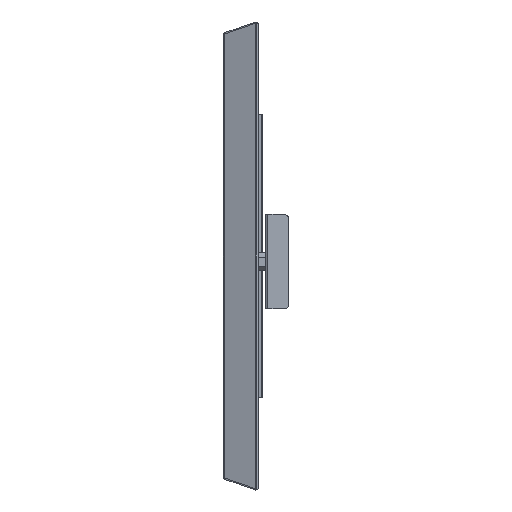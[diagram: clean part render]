
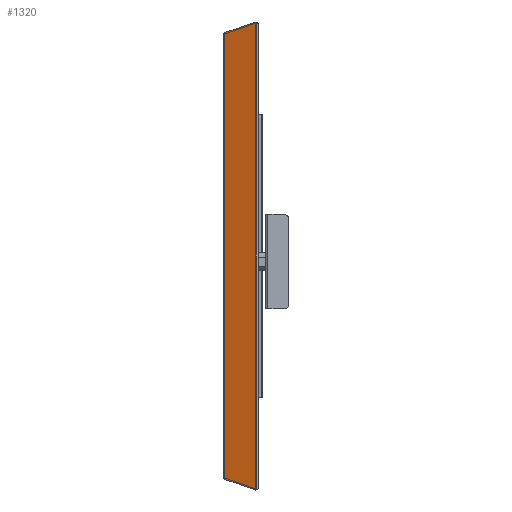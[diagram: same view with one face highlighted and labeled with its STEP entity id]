
A CAD part, left-side view. The second image highlights one B-rep face of the part: STEP entity #1320.
In plain terms, the highlighted planar face has unit normal (-0.946, 0.326, 0).
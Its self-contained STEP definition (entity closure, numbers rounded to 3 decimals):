
#68 = VECTOR ( 'NONE', #3161, 1000. ) ;
#77 = VERTEX_POINT ( 'NONE', #1229 ) ;
#475 = LINE ( 'NONE', #2182, #4254 ) ;
#514 = PLANE ( 'NONE',  #2197 ) ;
#733 = ORIENTED_EDGE ( 'NONE', *, *, #1914, .T. ) ;
#826 = ORIENTED_EDGE ( 'NONE', *, *, #2741, .T. ) ;
#829 = CARTESIAN_POINT ( 'NONE',  ( -638.375, 35.213, 236.375 ) ) ;
#897 = DIRECTION ( 'NONE',  ( -0.31, -0.899, -0.31 ) ) ;
#973 = ORIENTED_EDGE ( 'NONE', *, *, #3460, .T. ) ;
#1125 = DIRECTION ( 'NONE',  ( 0., 0., -1. ) ) ;
#1208 = EDGE_LOOP ( 'NONE', ( #2520, #733, #826, #973 ) ) ;
#1229 = CARTESIAN_POINT ( 'NONE',  ( -649.427, 3.115, 247.427 ) ) ;
#1320 = ADVANCED_FACE ( 'NONE', ( #3644 ), #514, .T. ) ;
#1534 = CARTESIAN_POINT ( 'NONE',  ( -650.5, 0., -248.5 ) ) ;
#1547 = EDGE_CURVE ( 'NONE', #3508, #77, #3111, .T. ) ;
#1557 = VECTOR ( 'NONE', #897, 1000. ) ;
#1602 = DIRECTION ( 'NONE',  ( -0.326, -0.946, 0. ) ) ;
#1800 = CARTESIAN_POINT ( 'NONE',  ( -650.5, 0., 248.5 ) ) ;
#1914 = EDGE_CURVE ( 'NONE', #3508, #3832, #3462, .T. ) ;
#1935 = DIRECTION ( 'NONE',  ( -0.946, 0.326, 0. ) ) ;
#2140 = DIRECTION ( 'NONE',  ( 0., 0., 1. ) ) ;
#2182 = CARTESIAN_POINT ( 'NONE',  ( -649.427, 3.115, -248.5 ) ) ;
#2197 = AXIS2_PLACEMENT_3D ( 'NONE', #1534, #1935, #1602 ) ;
#2362 = CARTESIAN_POINT ( 'NONE',  ( -638.375, 35.213, -236.375 ) ) ;
#2520 = ORIENTED_EDGE ( 'NONE', *, *, #1547, .F. ) ;
#2563 = VERTEX_POINT ( 'NONE', #3730 ) ;
#2615 = CARTESIAN_POINT ( 'NONE',  ( -650.5, 0., -248.5 ) ) ;
#2741 = EDGE_CURVE ( 'NONE', #3832, #2563, #3614, .T. ) ;
#3087 = CARTESIAN_POINT ( 'NONE',  ( -638.375, 35.213, -235.76 ) ) ;
#3111 = LINE ( 'NONE', #1800, #68 ) ;
#3161 = DIRECTION ( 'NONE',  ( -0.31, -0.899, 0.31 ) ) ;
#3460 = EDGE_CURVE ( 'NONE', #2563, #77, #475, .T. ) ;
#3462 = LINE ( 'NONE', #3087, #3544 ) ;
#3508 = VERTEX_POINT ( 'NONE', #829 ) ;
#3544 = VECTOR ( 'NONE', #1125, 1000. ) ;
#3614 = LINE ( 'NONE', #2615, #1557 ) ;
#3644 = FACE_OUTER_BOUND ( 'NONE', #1208, .T. ) ;
#3730 = CARTESIAN_POINT ( 'NONE',  ( -649.427, 3.115, -247.427 ) ) ;
#3832 = VERTEX_POINT ( 'NONE', #2362 ) ;
#4254 = VECTOR ( 'NONE', #2140, 1000. ) ;
